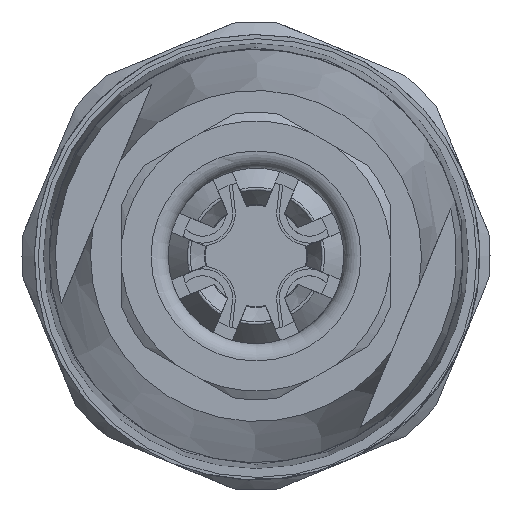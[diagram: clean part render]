
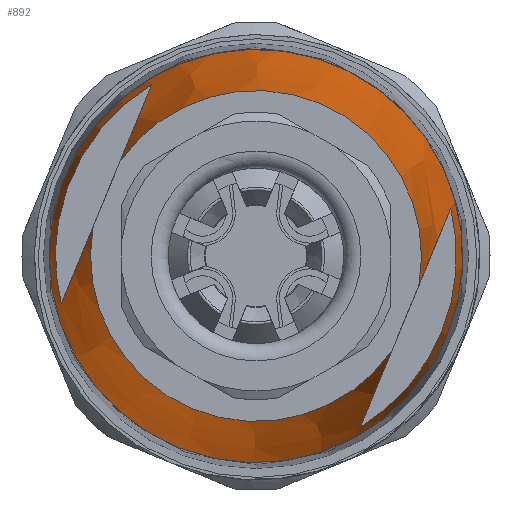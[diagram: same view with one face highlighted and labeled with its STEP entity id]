
A CAD part, left-side view. The second image highlights one B-rep face of the part: STEP entity #892.
In plain terms, the highlighted conical face has half-angle 9.796 degrees and reference radius 12.018 mm.
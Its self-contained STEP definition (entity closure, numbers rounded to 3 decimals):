
#340=CONICAL_SURFACE('',#8047,12.018,9.796);
#892=ADVANCED_FACE('',(#1349,#1350),#340,.T.);
#1349=FACE_BOUND('',#1647,.T.);
#1350=FACE_BOUND('',#1648,.T.);
#1647=EDGE_LOOP('',(#3788));
#1648=EDGE_LOOP('',(#3789,#3790,#3791,#3792,#3793,#3794,#3795,#3796));
#2168=CIRCLE('',#8037,9.618);
#2169=CIRCLE('',#8038,9.618);
#2172=CIRCLE('',#8044,12.016);
#2173=CIRCLE('',#8045,11.656);
#2174=CIRCLE('',#8046,11.656);
#2493=B_SPLINE_CURVE_WITH_KNOTS('',3,(#14176,#14177,#14178,#14179,#14180,
#14181,#14182,#14183),.UNSPECIFIED.,.F.,.F.,(4,2,2,4),(0.,0.5,0.75,1.),
 .UNSPECIFIED.);
#2494=B_SPLINE_CURVE_WITH_KNOTS('',3,(#14184,#14185,#14186,#14187,#14188,
#14189,#14190,#14191),.UNSPECIFIED.,.F.,.F.,(4,2,2,4),(0.,0.5,0.75,1.),
 .UNSPECIFIED.);
#2495=B_SPLINE_CURVE_WITH_KNOTS('',3,(#14195,#14196,#14197,#14198,#14199,
#14200,#14201,#14202),.UNSPECIFIED.,.F.,.F.,(4,2,2,4),(0.,0.25,0.5,1.),
 .UNSPECIFIED.);
#2496=B_SPLINE_CURVE_WITH_KNOTS('',3,(#14203,#14204,#14205,#14206,#14207,
#14208,#14209,#14210),.UNSPECIFIED.,.F.,.F.,(4,2,2,4),(0.,0.25,0.5,1.),
 .UNSPECIFIED.);
#3788=ORIENTED_EDGE('',*,*,#6425,.T.);
#3789=ORIENTED_EDGE('',*,*,#6426,.T.);
#3790=ORIENTED_EDGE('',*,*,#6427,.T.);
#3791=ORIENTED_EDGE('',*,*,#6414,.T.);
#3792=ORIENTED_EDGE('',*,*,#6428,.F.);
#3793=ORIENTED_EDGE('',*,*,#6429,.F.);
#3794=ORIENTED_EDGE('',*,*,#6430,.F.);
#3795=ORIENTED_EDGE('',*,*,#6416,.T.);
#3796=ORIENTED_EDGE('',*,*,#6431,.T.);
#5501=VERTEX_POINT('',#13898);
#5502=VERTEX_POINT('',#13899);
#5503=VERTEX_POINT('',#13901);
#5504=VERTEX_POINT('',#13903);
#5508=VERTEX_POINT('',#14172);
#5509=VERTEX_POINT('',#14174);
#5510=VERTEX_POINT('',#14175);
#5511=VERTEX_POINT('',#14192);
#5512=VERTEX_POINT('',#14194);
#6414=EDGE_CURVE('',#5501,#5502,#2168,.T.);
#6416=EDGE_CURVE('',#5504,#5503,#2169,.T.);
#6425=EDGE_CURVE('',#5508,#5508,#2172,.T.);
#6426=EDGE_CURVE('',#5509,#5510,#2173,.T.);
#6427=EDGE_CURVE('',#5510,#5501,#2493,.T.);
#6428=EDGE_CURVE('',#5511,#5502,#2494,.T.);
#6429=EDGE_CURVE('',#5512,#5511,#2174,.T.);
#6430=EDGE_CURVE('',#5504,#5512,#2495,.T.);
#6431=EDGE_CURVE('',#5503,#5509,#2496,.T.);
#8037=AXIS2_PLACEMENT_3D('',#13897,#9195,#9196);
#8038=AXIS2_PLACEMENT_3D('',#13902,#9198,#9199);
#8044=AXIS2_PLACEMENT_3D('',#14171,#9213,#9214);
#8045=AXIS2_PLACEMENT_3D('',#14173,#9215,#9216);
#8046=AXIS2_PLACEMENT_3D('',#14193,#9217,#9218);
#8047=AXIS2_PLACEMENT_3D('',#14211,#9219,#9220);
#9195=DIRECTION('',(1.,0.,0.));
#9196=DIRECTION('',(0.,0.924,0.382));
#9198=DIRECTION('',(1.,0.,0.));
#9199=DIRECTION('',(0.,0.924,0.382));
#9213=DIRECTION('',(-1.,0.,0.));
#9214=DIRECTION('',(0.,-0.924,-0.382));
#9215=DIRECTION('',(1.,0.,0.));
#9216=DIRECTION('',(0.,-0.924,-0.382));
#9217=DIRECTION('',(-1.,0.,0.));
#9218=DIRECTION('',(0.,0.924,0.382));
#9219=DIRECTION('',(1.,0.,0.));
#9220=DIRECTION('',(0.,0.924,0.382));
#13897=CARTESIAN_POINT('',(-12.886,-2.448,-2.225));
#13898=CARTESIAN_POINT('',(-12.886,-10.358,-7.697));
#13899=CARTESIAN_POINT('',(-12.886,7.018,-0.519));
#13901=CARTESIAN_POINT('',(-12.886,-11.914,-3.931));
#13902=CARTESIAN_POINT('',(-12.886,-2.448,-2.225));
#13903=CARTESIAN_POINT('',(-12.886,5.462,3.247));
#14171=CARTESIAN_POINT('',(0.998,-2.448,-2.225));
#14172=CARTESIAN_POINT('',(0.998,-13.553,-6.813));
#14173=CARTESIAN_POINT('',(-1.086,-2.448,-2.225));
#14174=CARTESIAN_POINT('',(-1.086,-13.767,0.555));
#14175=CARTESIAN_POINT('',(-1.086,-8.504,-12.184));
#14176=CARTESIAN_POINT('',(-1.086,-8.504,-12.184));
#14177=CARTESIAN_POINT('',(-3.139,-8.733,-11.63));
#14178=CARTESIAN_POINT('',(-5.176,-8.977,-11.04));
#14179=CARTESIAN_POINT('',(-8.166,-9.402,-10.009));
#14180=CARTESIAN_POINT('',(-9.152,-9.554,-9.642));
#14181=CARTESIAN_POINT('',(-11.077,-9.902,-8.8));
#14182=CARTESIAN_POINT('',(-12.025,-10.09,-8.346));
#14183=CARTESIAN_POINT('',(-12.886,-10.358,-7.697));
#14184=CARTESIAN_POINT('',(-1.086,8.871,-5.005));
#14185=CARTESIAN_POINT('',(-3.139,8.642,-4.451));
#14186=CARTESIAN_POINT('',(-5.176,8.399,-3.861));
#14187=CARTESIAN_POINT('',(-8.166,7.973,-2.83));
#14188=CARTESIAN_POINT('',(-9.152,7.821,-2.463));
#14189=CARTESIAN_POINT('',(-11.077,7.473,-1.621));
#14190=CARTESIAN_POINT('',(-12.025,7.286,-1.167));
#14191=CARTESIAN_POINT('',(-12.886,7.018,-0.519));
#14192=CARTESIAN_POINT('',(-1.086,8.871,-5.005));
#14193=CARTESIAN_POINT('',(-1.086,-2.448,-2.225));
#14194=CARTESIAN_POINT('',(-1.086,3.608,7.734));
#14195=CARTESIAN_POINT('',(-12.886,5.462,3.247));
#14196=CARTESIAN_POINT('',(-12.045,5.2,3.881));
#14197=CARTESIAN_POINT('',(-11.103,5.011,4.338));
#14198=CARTESIAN_POINT('',(-9.177,4.663,5.182));
#14199=CARTESIAN_POINT('',(-8.183,4.509,5.553));
#14200=CARTESIAN_POINT('',(-5.178,4.081,6.589));
#14201=CARTESIAN_POINT('',(-3.139,3.837,7.18));
#14202=CARTESIAN_POINT('',(-1.086,3.608,7.734));
#14203=CARTESIAN_POINT('',(-12.886,-11.914,-3.931));
#14204=CARTESIAN_POINT('',(-12.045,-12.175,-3.298));
#14205=CARTESIAN_POINT('',(-11.103,-12.364,-2.841));
#14206=CARTESIAN_POINT('',(-9.177,-12.713,-1.997));
#14207=CARTESIAN_POINT('',(-8.183,-12.866,-1.626));
#14208=CARTESIAN_POINT('',(-5.178,-13.294,-0.589));
#14209=CARTESIAN_POINT('',(-3.139,-13.538,0.001));
#14210=CARTESIAN_POINT('',(-1.086,-13.767,0.555));
#14211=CARTESIAN_POINT('',(1.014,-2.448,-2.225));
